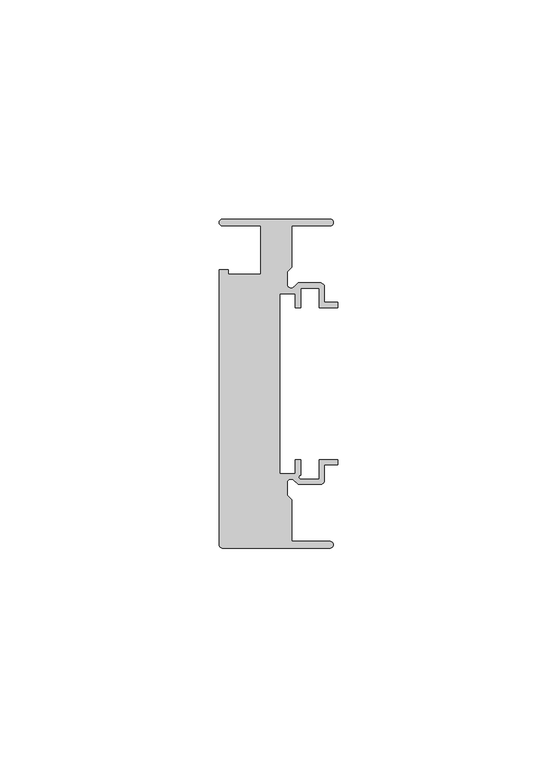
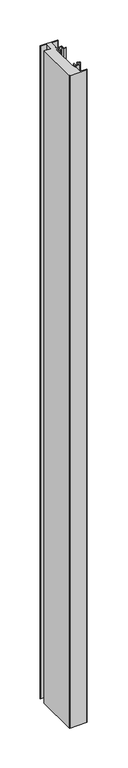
"""IFC4 building model written with IfcOpenShell, lengths in millimetres: member geometry, Прямоугольный импост : 5-AMG-1-Профиль 26Х75 Низ Л."""

from ifc_helpers import new_model, si_unit, point, frame, frame_2d, origin, place, context, project, spatial, polyline, circle_curve, trimmed, segment, composite_curve, outline, extrude, source, transform, mapped, element, save


def member_acdd2171(model_context):
    return source(origin(), model_context, "Body", "SweptSolid", [
        extrude(outline(composite_curve([segment(trimmed(circle_curve(frame_2d((-1.7, 36.75)), 0.75), [point((-1.7, 37.5))], [point((-1.7, 36.0))], False, "CARTESIAN"), True, "CONTINUOUS"), segment(polyline([(-1.7, 36.0), (-10.5, 36.0), (-10.5, 26.5029437), (-11.5, 25.5029437), (-11.5, 22.6727922)]), True, "CONTINUOUS"), segment(trimmed(circle_curve(frame_2d((-10.6, 22.6727922)), 0.9), [point((-11.5, 22.6727922))], [point((-9.9636039, 22.0363961))], True, "CARTESIAN"), True, "CONTINUOUS"), segment(polyline([(-9.9636039, 22.0363961), (-9.0, 23.0), (-4.0, 23.0)]), True, "CONTINUOUS"), segment(trimmed(circle_curve(frame_2d((-4.0, 22.0)), 1.0), [point((-4.0, 23.0))], [point((-3.0, 22.0))], False, "CARTESIAN"), True, "CONTINUOUS"), segment(polyline([(-3.0, 22.0), (-3.0, 18.55), (0.0, 18.55), (0.0, 17.35), (-4.2, 17.35), (-4.2, 21.8), (-8.45, 21.8), (-8.45, 17.35), (-9.65, 17.35), (-9.65, 20.55), (-13.15, 20.55), (-13.15, -20.55), (-9.65, -20.55), (-9.65, -17.35), (-8.45, -17.35), (-8.45, -20.8470563)]), True, "CONTINUOUS"), segment(trimmed(circle_curve(frame_2d((-8.3343131, -21.3314262)), 0.4979937), [point((-8.45, -20.8470563))], [point((-8.5029437, -21.8))], True, "CARTESIAN"), True, "CONTINUOUS"), segment(polyline([(-8.5029437, -21.8), (-4.2, -21.8), (-4.2, -17.35), (0.0, -17.35), (0.0, -18.55), (-3.0, -18.55), (-3.0, -22.0)]), True, "CONTINUOUS"), segment(trimmed(circle_curve(frame_2d((-4.0, -22.0)), 1.0), [point((-3.0, -22.0))], [point((-4.0, -23.0))], False, "CARTESIAN"), True, "CONTINUOUS"), segment(polyline([(-4.0, -23.0), (-9.0, -23.0), (-9.9636039, -22.0363961)]), True, "CONTINUOUS"), segment(trimmed(circle_curve(frame_2d((-10.6, -22.6727922)), 0.9), [point((-9.9636039, -22.0363961))], [point((-11.5, -22.6727922))], True, "CARTESIAN"), True, "CONTINUOUS"), segment(polyline([(-11.5, -22.6727922), (-11.5, -25.5029437), (-10.5, -26.5029437), (-10.5, -36.0), (-1.7, -36.0)]), True, "CONTINUOUS"), segment(trimmed(circle_curve(frame_2d((-1.7, -36.75)), 0.75), [point((-1.7, -36.0))], [point((-1.7, -37.5))], False, "CARTESIAN"), True, "CONTINUOUS"), segment(polyline([(-1.7, -37.5), (-26.25, -37.5)]), True, "CONTINUOUS"), segment(trimmed(circle_curve(frame_2d((-26.25, -36.75)), 0.75), [point((-26.25, -37.5))], [point((-27.0, -36.75))], False, "CARTESIAN"), True, "CONTINUOUS"), segment(polyline([(-27.0, -36.75), (-27.0, 26.0), (-24.9359877, 26.0), (-24.9359877, 25.0), (-17.5, 25.0), (-17.5, 36.0), (-26.25, 36.0)]), True, "CONTINUOUS"), segment(trimmed(circle_curve(frame_2d((-26.25, 36.75)), 0.75), [point((-26.25, 36.0))], [point((-26.25, 37.5))], False, "CARTESIAN"), True, "CONTINUOUS"), segment(polyline([(-26.25, 37.5), (-1.7, 37.5)]), True, "CONTINUOUS")], self_intersect=False)), frame((0.0, 0.0, -1000.0), z_axis=(0.0, 0.0, 1.0), x_axis=(1.0, 0.0, 0.0)), (0.0, 0.0, 1.0), 1000.0),
    ])


if __name__ == "__main__":
    model = new_model("IFC4")
    model_context = context("Model", 3, world=origin())
    ifc_project = project(units=[si_unit("LENGTHUNIT", "METRE", prefix="MILLI")], contexts=[model_context])
    site = spatial("IfcSite", under=ifc_project)
    building = spatial("IfcBuilding", under=site)
    placement = place(None, origin())
    member_shape = member_acdd2171(model_context)
    element("IfcMember", 1, ObjectType="Прямоугольный импост : 5-AMG-1-Профиль 26Х75 Низ Л", at=placement, inside=building, context=model_context, shape_type="MappedRepresentation", body=[
        mapped(member_shape, transform((0.0, 0.0, 0.0), x_axis=(1.0, 0.0, 0.0), y_axis=(0.0, 1.0, 0.0), z_axis=(0.0, 0.0, 1.0))),
    ])
    save(model, "model.ifc")
